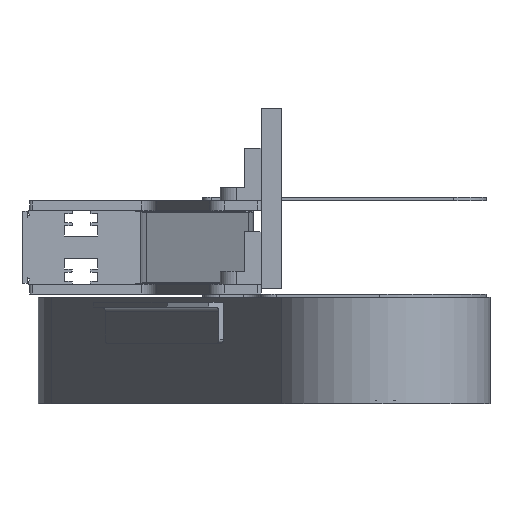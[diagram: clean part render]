
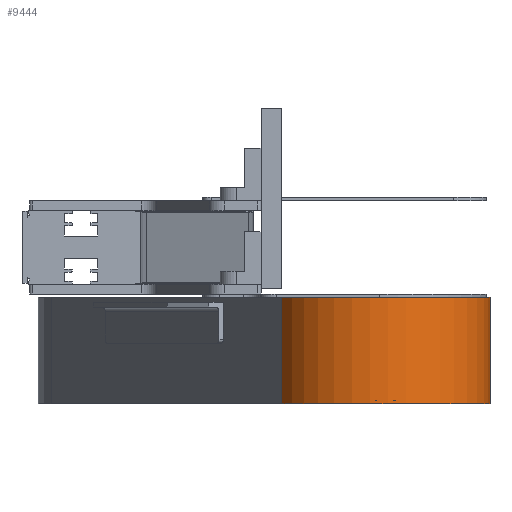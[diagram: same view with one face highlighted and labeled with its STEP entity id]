
A CAD part, left-side view. The second image highlights one B-rep face of the part: STEP entity #9444.
In plain terms, the highlighted cylindrical face has radius 67.5 mm (diameter 135 mm), a partial arc.
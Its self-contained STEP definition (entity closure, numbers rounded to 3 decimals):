
#73 = CARTESIAN_POINT ( 'NONE',  ( -392.674, -182.075, -95.5 ) ) ;
#536 = CARTESIAN_POINT ( 'NONE',  ( -424.364, -122.476, -95.5 ) ) ;
#705 = CARTESIAN_POINT ( 'NONE',  ( -392.674, -249.575, -30.5 ) ) ;
#968 = AXIS2_PLACEMENT_3D ( 'NONE', #73, #7220, #19023 ) ;
#1490 = VECTOR ( 'NONE', #4491, 1000. ) ;
#1840 = VERTEX_POINT ( 'NONE', #16506 ) ;
#3113 = AXIS2_PLACEMENT_3D ( 'NONE', #5901, #16265, #4555 ) ;
#3816 = DIRECTION ( 'NONE',  ( 0., 0., -1. ) ) ;
#3881 = VERTEX_POINT ( 'NONE', #18288 ) ;
#4206 = CYLINDRICAL_SURFACE ( 'NONE', #968, 67.5 ) ;
#4491 = DIRECTION ( 'NONE',  ( 0., 0., 1. ) ) ;
#4555 = DIRECTION ( 'NONE',  ( 0., 1., 0. ) ) ;
#5051 = ORIENTED_EDGE ( 'NONE', *, *, #12425, .F. ) ;
#5901 = CARTESIAN_POINT ( 'NONE',  ( -392.674, -182.075, -95.5 ) ) ;
#7220 = DIRECTION ( 'NONE',  ( 0., 0., 1. ) ) ;
#9059 = CIRCLE ( 'NONE', #3113, 67.5 ) ;
#9444 = ADVANCED_FACE ( 'NONE', ( #16404 ), #4206, .T. ) ;
#9613 = DIRECTION ( 'NONE',  ( 0., 0., 1. ) ) ;
#9799 = EDGE_CURVE ( 'NONE', #17145, #1840, #13833, .T. ) ;
#11007 = CARTESIAN_POINT ( 'NONE',  ( -392.674, -182.075, -30.5 ) ) ;
#11191 = VECTOR ( 'NONE', #9613, 1000. ) ;
#11210 = DIRECTION ( 'NONE',  ( 0., 1., 0. ) ) ;
#11373 = LINE ( 'NONE', #17822, #1490 ) ;
#11400 = LINE ( 'NONE', #536, #11191 ) ;
#12425 = EDGE_CURVE ( 'NONE', #14023, #1840, #11400, .T. ) ;
#13255 = EDGE_CURVE ( 'NONE', #3881, #14023, #9059, .T. ) ;
#13280 = EDGE_CURVE ( 'NONE', #3881, #17145, #11373, .T. ) ;
#13833 = CIRCLE ( 'NONE', #18451, 67.5 ) ;
#14023 = VERTEX_POINT ( 'NONE', #17018 ) ;
#14655 = ORIENTED_EDGE ( 'NONE', *, *, #13280, .T. ) ;
#16265 = DIRECTION ( 'NONE',  ( 0., 0., -1. ) ) ;
#16320 = ORIENTED_EDGE ( 'NONE', *, *, #9799, .T. ) ;
#16404 = FACE_OUTER_BOUND ( 'NONE', #17975, .T. ) ;
#16506 = CARTESIAN_POINT ( 'NONE',  ( -424.364, -122.476, -30.5 ) ) ;
#17018 = CARTESIAN_POINT ( 'NONE',  ( -424.364, -122.476, -95.5 ) ) ;
#17145 = VERTEX_POINT ( 'NONE', #705 ) ;
#17822 = CARTESIAN_POINT ( 'NONE',  ( -392.674, -249.575, -95.5 ) ) ;
#17975 = EDGE_LOOP ( 'NONE', ( #18957, #14655, #16320, #5051 ) ) ;
#18288 = CARTESIAN_POINT ( 'NONE',  ( -392.674, -249.575, -95.5 ) ) ;
#18451 = AXIS2_PLACEMENT_3D ( 'NONE', #11007, #3816, #11210 ) ;
#18957 = ORIENTED_EDGE ( 'NONE', *, *, #13255, .F. ) ;
#19023 = DIRECTION ( 'NONE',  ( 0., -1., 0. ) ) ;
